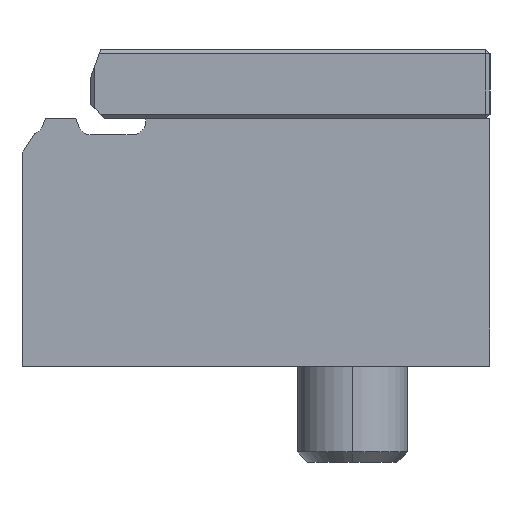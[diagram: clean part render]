
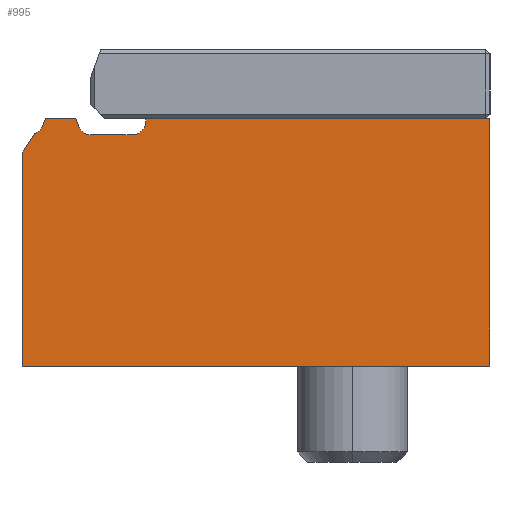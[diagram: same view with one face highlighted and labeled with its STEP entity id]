
A CAD part, left-side view. The second image highlights one B-rep face of the part: STEP entity #995.
In plain terms, the highlighted planar face has unit normal (-1, 0, 0).
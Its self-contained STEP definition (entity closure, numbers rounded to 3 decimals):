
#343 = FACE_OUTER_BOUND ( 'NONE', #5484, .T. ) ;
#352 = PLANE ( 'NONE',  #4811 ) ;
#353 = CARTESIAN_POINT ( 'NONE',  ( -129.106, 15.989, 21.471 ) ) ;
#354 = DIRECTION ( 'NONE',  ( 1., 0., 0. ) ) ;
#356 = DIRECTION ( 'NONE',  ( 0., 0., -1. ) ) ;
#453 = CARTESIAN_POINT ( 'NONE',  ( -129.106, 44.952, 21.271 ) ) ;
#454 = DIRECTION ( 'NONE',  ( -1., 0., 0. ) ) ;
#455 = DIRECTION ( 'NONE',  ( 0., 0., 1. ) ) ;
#693 = EDGE_CURVE ( 'NONE', #4246, #4191, #1618, .T. ) ;
#712 = EDGE_CURVE ( 'NONE', #3302, #4246, #1675, .T. ) ;
#717 = EDGE_CURVE ( 'NONE', #3286, #4164, #1699, .T. ) ;
#733 = EDGE_CURVE ( 'NONE', #3212, #4583, #5968, .T. ) ;
#786 = EDGE_CURVE ( 'NONE', #3267, #3266, #6194, .T. ) ;
#883 = EDGE_CURVE ( 'NONE', #3267, #3302, #5532, .T. ) ;
#995 = ADVANCED_FACE ( 'NONE', ( #343 ), #352, .F. ) ;
#1017 = EDGE_CURVE ( 'NONE', #4550, #4161, #4833, .T. ) ;
#1123 = EDGE_CURVE ( 'NONE', #3266, #3286, #5258, .T. ) ;
#1132 = EDGE_CURVE ( 'NONE', #3334, #3230, #4944, .T. ) ;
#1160 = EDGE_CURVE ( 'NONE', #3230, #3212, #5379, .T. ) ;
#1288 = EDGE_CURVE ( 'NONE', #4583, #4164, #3070, .T. ) ;
#1346 = EDGE_CURVE ( 'NONE', #4161, #3334, #1768, .T. ) ;
#1399 = EDGE_CURVE ( 'NONE', #4191, #4550, #2034, .T. ) ;
#1586 = VECTOR ( 'NONE', #6196, 1000. ) ;
#1618 = LINE ( 'NONE', #1625, #3444 ) ;
#1625 = CARTESIAN_POINT ( 'NONE',  ( -129.106, 15.989, 21.471 ) ) ;
#1627 = DIRECTION ( 'NONE',  ( 0., -1., 0. ) ) ;
#1675 = LINE ( 'NONE', #1685, #3429 ) ;
#1685 = CARTESIAN_POINT ( 'NONE',  ( -129.106, 48.487, 20.929 ) ) ;
#1687 = DIRECTION ( 'NONE',  ( 0., -0.342, 0.94 ) ) ;
#1694 = CARTESIAN_POINT ( 'NONE',  ( -129.106, 15.989, 3.471 ) ) ;
#1699 = LINE ( 'NONE', #1694, #3458 ) ;
#1703 = DIRECTION ( 'NONE',  ( 0., -1., 0. ) ) ;
#1761 = CARTESIAN_POINT ( 'NONE',  ( -129.106, 44.952, 20.271 ) ) ;
#1768 = LINE ( 'NONE', #1761, #2076 ) ;
#1772 = DIRECTION ( 'NONE',  ( 0., -1., 0. ) ) ;
#1978 = VECTOR ( 'NONE', #2049, 1000. ) ;
#2034 = LINE ( 'NONE', #2045, #1978 ) ;
#2045 = CARTESIAN_POINT ( 'NONE',  ( -129.106, 46.089, 21.471 ) ) ;
#2049 = DIRECTION ( 'NONE',  ( 0., -0.342, -0.94 ) ) ;
#2076 = VECTOR ( 'NONE', #1772, 1000. ) ;
#2279 = CARTESIAN_POINT ( 'NONE',  ( -129.106, 40.989, 21.471 ) ) ;
#2297 = CARTESIAN_POINT ( 'NONE',  ( -129.106, 40.989, 21.271 ) ) ;
#2333 = CARTESIAN_POINT ( 'NONE',  ( -129.106, 49.989, 18.953 ) ) ;
#2334 = CARTESIAN_POINT ( 'NONE',  ( -129.106, 49.052, 20.344 ) ) ;
#2353 = CARTESIAN_POINT ( 'NONE',  ( -129.106, 49.989, 3.471 ) ) ;
#2369 = CARTESIAN_POINT ( 'NONE',  ( -129.106, 48.487, 20.929 ) ) ;
#3070 = LINE ( 'NONE', #3071, #4801 ) ;
#3071 = CARTESIAN_POINT ( 'NONE',  ( -129.106, 15.989, 21.471 ) ) ;
#3072 = DIRECTION ( 'NONE',  ( 0., 0., -1. ) ) ;
#3212 = VERTEX_POINT ( 'NONE', #2279 ) ;
#3230 = VERTEX_POINT ( 'NONE', #2297 ) ;
#3266 = VERTEX_POINT ( 'NONE', #2333 ) ;
#3267 = VERTEX_POINT ( 'NONE', #2334 ) ;
#3286 = VERTEX_POINT ( 'NONE', #2353 ) ;
#3302 = VERTEX_POINT ( 'NONE', #2369 ) ;
#3334 = VERTEX_POINT ( 'NONE', #4988 ) ;
#3427 = VECTOR ( 'NONE', #5970, 1000. ) ;
#3429 = VECTOR ( 'NONE', #1687, 1000. ) ;
#3444 = VECTOR ( 'NONE', #1627, 1000. ) ;
#3458 = VECTOR ( 'NONE', #1703, 1000. ) ;
#3894 = CARTESIAN_POINT ( 'NONE',  ( -129.106, 49.426, 21.271 ) ) ;
#3895 = DIRECTION ( 'NONE',  ( -1., 0., 0. ) ) ;
#3896 = DIRECTION ( 'NONE',  ( 0., 0., 1. ) ) ;
#4161 = VERTEX_POINT ( 'NONE', #4993 ) ;
#4164 = VERTEX_POINT ( 'NONE', #4999 ) ;
#4191 = VERTEX_POINT ( 'NONE', #5026 ) ;
#4246 = VERTEX_POINT ( 'NONE', #5081 ) ;
#4401 = ORIENTED_EDGE ( 'NONE', *, *, #883, .F. ) ;
#4402 = ORIENTED_EDGE ( 'NONE', *, *, #786, .T. ) ;
#4403 = ORIENTED_EDGE ( 'NONE', *, *, #1123, .T. ) ;
#4404 = ORIENTED_EDGE ( 'NONE', *, *, #717, .T. ) ;
#4405 = ORIENTED_EDGE ( 'NONE', *, *, #1288, .F. ) ;
#4406 = ORIENTED_EDGE ( 'NONE', *, *, #733, .F. ) ;
#4407 = ORIENTED_EDGE ( 'NONE', *, *, #1160, .F. ) ;
#4408 = ORIENTED_EDGE ( 'NONE', *, *, #1132, .F. ) ;
#4409 = ORIENTED_EDGE ( 'NONE', *, *, #1346, .F. ) ;
#4410 = ORIENTED_EDGE ( 'NONE', *, *, #1017, .F. ) ;
#4411 = ORIENTED_EDGE ( 'NONE', *, *, #1399, .F. ) ;
#4412 = ORIENTED_EDGE ( 'NONE', *, *, #693, .F. ) ;
#4413 = ORIENTED_EDGE ( 'NONE', *, *, #712, .F. ) ;
#4550 = VERTEX_POINT ( 'NONE', #5125 ) ;
#4583 = VERTEX_POINT ( 'NONE', #5135 ) ;
#4801 = VECTOR ( 'NONE', #3072, 1000. ) ;
#4811 = AXIS2_PLACEMENT_3D ( 'NONE', #353, #354, #356 ) ;
#4815 = AXIS2_PLACEMENT_3D ( 'NONE', #453, #454, #455 ) ;
#4833 = CIRCLE ( 'NONE', #4815, 1. ) ;
#4917 = AXIS2_PLACEMENT_3D ( 'NONE', #5292, #5293, #5294 ) ;
#4939 = VECTOR ( 'NONE', #5265, 1000. ) ;
#4944 = CIRCLE ( 'NONE', #4917, 1. ) ;
#4988 = CARTESIAN_POINT ( 'NONE',  ( -129.106, 41.989, 20.271 ) ) ;
#4993 = CARTESIAN_POINT ( 'NONE',  ( -129.106, 44.952, 20.271 ) ) ;
#4999 = CARTESIAN_POINT ( 'NONE',  ( -129.106, 15.989, 3.471 ) ) ;
#5026 = CARTESIAN_POINT ( 'NONE',  ( -129.106, 46.089, 21.471 ) ) ;
#5081 = CARTESIAN_POINT ( 'NONE',  ( -129.106, 48.289, 21.471 ) ) ;
#5125 = CARTESIAN_POINT ( 'NONE',  ( -129.106, 45.892, 20.929 ) ) ;
#5135 = CARTESIAN_POINT ( 'NONE',  ( -129.106, 15.989, 21.471 ) ) ;
#5258 = LINE ( 'NONE', #5264, #4939 ) ;
#5264 = CARTESIAN_POINT ( 'NONE',  ( -129.106, 49.989, 21.471 ) ) ;
#5265 = DIRECTION ( 'NONE',  ( 0., 0., -1. ) ) ;
#5292 = CARTESIAN_POINT ( 'NONE',  ( -129.106, 41.989, 21.271 ) ) ;
#5293 = DIRECTION ( 'NONE',  ( -1., 0., 0. ) ) ;
#5294 = DIRECTION ( 'NONE',  ( 0., 0., -1. ) ) ;
#5379 = LINE ( 'NONE', #5388, #5841 ) ;
#5388 = CARTESIAN_POINT ( 'NONE',  ( -129.106, 40.989, 21.471 ) ) ;
#5389 = DIRECTION ( 'NONE',  ( 0., 0., 1. ) ) ;
#5484 = EDGE_LOOP ( 'NONE', ( #4401, #4402, #4403, #4404, #4405, #4406, #4407, #4408, #4409, #4410, #4411, #4412, #4413 ) ) ;
#5532 = CIRCLE ( 'NONE', #5552, 1. ) ;
#5552 = AXIS2_PLACEMENT_3D ( 'NONE', #3894, #3895, #3896 ) ;
#5841 = VECTOR ( 'NONE', #5389, 1000. ) ;
#5968 = LINE ( 'NONE', #5969, #3427 ) ;
#5969 = CARTESIAN_POINT ( 'NONE',  ( -129.106, 15.989, 21.471 ) ) ;
#5970 = DIRECTION ( 'NONE',  ( 0., -1., 0. ) ) ;
#6194 = LINE ( 'NONE', #6195, #1586 ) ;
#6195 = CARTESIAN_POINT ( 'NONE',  ( -129.106, 49.052, 20.344 ) ) ;
#6196 = DIRECTION ( 'NONE',  ( 0., 0.559, -0.829 ) ) ;
